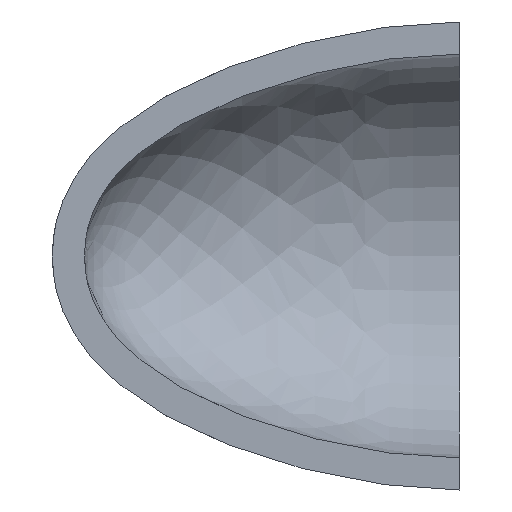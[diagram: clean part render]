
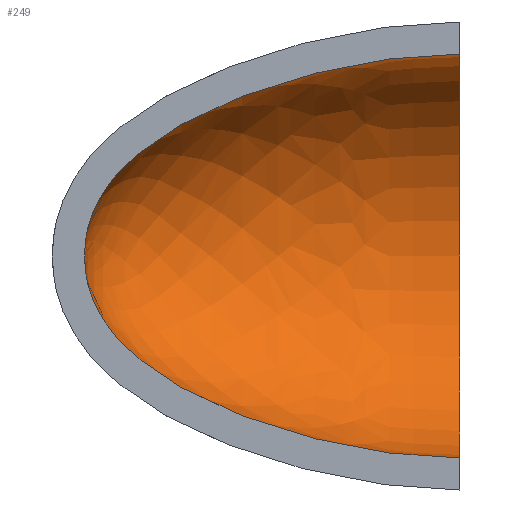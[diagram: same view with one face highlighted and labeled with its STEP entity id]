
A CAD part, left-side view. The second image highlights one B-rep face of the part: STEP entity #249.
In plain terms, the highlighted face is a revolution surface.
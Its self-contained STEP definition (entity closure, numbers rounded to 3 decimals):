
#100=CARTESIAN_POINT('Axis2P3D Location',(0.,0.,0.)) ;
#104=CARTESIAN_POINT('Vertex',(0.,0.,63.)) ;
#106=CARTESIAN_POINT('Vertex',(0.,0.,-63.)) ;
#132=CARTESIAN_POINT('Control Point',(0.,0.,-63.)) ;
#133=CARTESIAN_POINT('Control Point',(0.,2.071,-63.)) ;
#134=CARTESIAN_POINT('Control Point',(0.,4.163,-62.961)) ;
#135=CARTESIAN_POINT('Control Point',(0.,6.275,-62.884)) ;
#136=CARTESIAN_POINT('Control Point',(0.,11.84,-62.587)) ;
#137=CARTESIAN_POINT('Control Point',(0.,17.513,-62.046)) ;
#138=CARTESIAN_POINT('Control Point',(0.,21.049,-61.623)) ;
#139=CARTESIAN_POINT('Control Point',(0.,28.555,-60.55)) ;
#140=CARTESIAN_POINT('Control Point',(0.,36.127,-59.106)) ;
#141=CARTESIAN_POINT('Control Point',(0.,40.116,-58.247)) ;
#142=CARTESIAN_POINT('Control Point',(0.,48.566,-56.218)) ;
#143=CARTESIAN_POINT('Control Point',(0.,56.939,-53.744)) ;
#144=CARTESIAN_POINT('Control Point',(0.,61.325,-52.312)) ;
#145=CARTESIAN_POINT('Control Point',(0.,70.033,-49.17)) ;
#146=CARTESIAN_POINT('Control Point',(0.,78.406,-45.483)) ;
#147=CARTESIAN_POINT('Control Point',(0.,82.508,-43.484)) ;
#148=CARTESIAN_POINT('Control Point',(0.,88.641,-40.148)) ;
#149=CARTESIAN_POINT('Control Point',(0.,94.312,-36.431)) ;
#150=CARTESIAN_POINT('Control Point',(0.,96.259,-35.062)) ;
#151=CARTESIAN_POINT('Control Point',(0.,99.781,-32.393)) ;
#152=CARTESIAN_POINT('Control Point',(0.,102.998,-29.55)) ;
#153=CARTESIAN_POINT('Control Point',(0.,104.432,-28.181)) ;
#154=CARTESIAN_POINT('Control Point',(0.,107.026,-25.483)) ;
#155=CARTESIAN_POINT('Control Point',(0.,109.296,-22.656)) ;
#156=CARTESIAN_POINT('Control Point',(0.,110.304,-21.274)) ;
#157=CARTESIAN_POINT('Control Point',(0.,111.896,-18.846)) ;
#158=CARTESIAN_POINT('Control Point',(0.,113.233,-16.338)) ;
#159=CARTESIAN_POINT('Control Point',(0.,113.748,-15.271)) ;
#160=CARTESIAN_POINT('Control Point',(0.,114.832,-12.771)) ;
#161=CARTESIAN_POINT('Control Point',(0.,115.665,-10.191)) ;
#162=CARTESIAN_POINT('Control Point',(0.,116.057,-8.699)) ;
#163=CARTESIAN_POINT('Control Point',(0.,116.587,-6.105)) ;
#164=CARTESIAN_POINT('Control Point',(0.,116.879,-3.422)) ;
#165=CARTESIAN_POINT('Control Point',(0.,116.96,-2.296)) ;
#166=CARTESIAN_POINT('Control Point',(0.,117.,-1.156)) ;
#167=CARTESIAN_POINT('Control Point',(0.,117.,0.)) ;
#168=CARTESIAN_POINT('Vertex',(0.,117.,0.)) ;
#172=CARTESIAN_POINT('Control Point',(0.,0.,63.)) ;
#173=CARTESIAN_POINT('Control Point',(0.,2.071,63.)) ;
#174=CARTESIAN_POINT('Control Point',(0.,4.163,62.961)) ;
#175=CARTESIAN_POINT('Control Point',(0.,6.275,62.884)) ;
#176=CARTESIAN_POINT('Control Point',(0.,11.84,62.587)) ;
#177=CARTESIAN_POINT('Control Point',(0.,17.513,62.046)) ;
#178=CARTESIAN_POINT('Control Point',(0.,21.049,61.623)) ;
#179=CARTESIAN_POINT('Control Point',(0.,28.555,60.55)) ;
#180=CARTESIAN_POINT('Control Point',(0.,36.127,59.106)) ;
#181=CARTESIAN_POINT('Control Point',(0.,40.116,58.247)) ;
#182=CARTESIAN_POINT('Control Point',(0.,48.566,56.218)) ;
#183=CARTESIAN_POINT('Control Point',(0.,56.939,53.744)) ;
#184=CARTESIAN_POINT('Control Point',(0.,61.325,52.312)) ;
#185=CARTESIAN_POINT('Control Point',(0.,70.033,49.17)) ;
#186=CARTESIAN_POINT('Control Point',(0.,78.406,45.483)) ;
#187=CARTESIAN_POINT('Control Point',(0.,82.508,43.484)) ;
#188=CARTESIAN_POINT('Control Point',(0.,88.641,40.148)) ;
#189=CARTESIAN_POINT('Control Point',(0.,94.312,36.431)) ;
#190=CARTESIAN_POINT('Control Point',(0.,96.259,35.062)) ;
#191=CARTESIAN_POINT('Control Point',(0.,99.781,32.393)) ;
#192=CARTESIAN_POINT('Control Point',(0.,102.998,29.55)) ;
#193=CARTESIAN_POINT('Control Point',(0.,104.432,28.181)) ;
#194=CARTESIAN_POINT('Control Point',(0.,107.026,25.483)) ;
#195=CARTESIAN_POINT('Control Point',(0.,109.296,22.656)) ;
#196=CARTESIAN_POINT('Control Point',(0.,110.304,21.274)) ;
#197=CARTESIAN_POINT('Control Point',(0.,111.896,18.846)) ;
#198=CARTESIAN_POINT('Control Point',(0.,113.233,16.338)) ;
#199=CARTESIAN_POINT('Control Point',(0.,113.748,15.271)) ;
#200=CARTESIAN_POINT('Control Point',(0.,114.832,12.771)) ;
#201=CARTESIAN_POINT('Control Point',(0.,115.665,10.191)) ;
#202=CARTESIAN_POINT('Control Point',(0.,116.057,8.699)) ;
#203=CARTESIAN_POINT('Control Point',(0.,116.587,6.105)) ;
#204=CARTESIAN_POINT('Control Point',(0.,116.879,3.422)) ;
#205=CARTESIAN_POINT('Control Point',(0.,116.96,2.296)) ;
#206=CARTESIAN_POINT('Control Point',(0.,117.,1.156)) ;
#207=CARTESIAN_POINT('Control Point',(0.,117.,0.)) ;
#219=CARTESIAN_POINT('Control Point',(0.,0.,63.)) ;
#220=CARTESIAN_POINT('Control Point',(0.,6.828,63.)) ;
#221=CARTESIAN_POINT('Control Point',(0.,14.091,62.577)) ;
#222=CARTESIAN_POINT('Control Point',(0.,21.782,61.717)) ;
#223=CARTESIAN_POINT('Control Point',(0.,37.757,59.116)) ;
#224=CARTESIAN_POINT('Control Point',(0.,54.21,54.771)) ;
#225=CARTESIAN_POINT('Control Point',(0.,62.377,52.168)) ;
#226=CARTESIAN_POINT('Control Point',(0.,74.192,47.633)) ;
#227=CARTESIAN_POINT('Control Point',(0.,84.828,42.234)) ;
#228=CARTESIAN_POINT('Control Point',(0.,88.214,40.343)) ;
#229=CARTESIAN_POINT('Control Point',(0.,94.609,36.392)) ;
#230=CARTESIAN_POINT('Control Point',(0.,100.153,32.138)) ;
#231=CARTESIAN_POINT('Control Point',(0.,102.688,29.944)) ;
#232=CARTESIAN_POINT('Control Point',(0.,107.249,25.448)) ;
#233=CARTESIAN_POINT('Control Point',(0.,110.769,20.763)) ;
#234=CARTESIAN_POINT('Control Point',(0.,112.263,18.381)) ;
#235=CARTESIAN_POINT('Control Point',(0.,114.742,13.53)) ;
#236=CARTESIAN_POINT('Control Point',(0.,116.232,8.403)) ;
#237=CARTESIAN_POINT('Control Point',(0.,116.738,5.747)) ;
#238=CARTESIAN_POINT('Control Point',(0.,117.,2.953)) ;
#239=CARTESIAN_POINT('Control Point',(0.,117.,0.)) ;
#240=CARTESIAN_POINT('Axis1P Location',(0.,0.,0.)) ;
#101=DIRECTION('Axis2P3D Direction',(0.,1.,0.)) ;
#241=DIRECTION('Axis1P Direction',(0.,1.,0.)) ;
#102=AXIS2_PLACEMENT_3D('Circle Axis2P3D',#100,#101,$) ;
#245=ORIENTED_EDGE('',*,*,#108,.F.) ;
#246=ORIENTED_EDGE('',*,*,#208,.T.) ;
#247=ORIENTED_EDGE('',*,*,#170,.F.) ;
#249=ADVANCED_FACE('PartBody',(#248),#243,.F.) ;
#242=AXIS1_PLACEMENT('Revolution Surface Axis1P',#240,#241) ;
#131=B_SPLINE_CURVE_WITH_KNOTS('',5,(#132,#133,#134,#135,#136,#137,#138,#139,#140,#141,#142,#143,#144,#145,#146,#147,#148,#149,#150,#151,#152,#153,#154,#155,#156,#157,#158,#159,#160,#161,#162,#163,#164,#165,#166,#167),.UNSPECIFIED.,.F.,.U.,(6,3,3,3,3,3,3,3,3,3,3,6),(0.,15.183,39.678,66.856,97.314,128.14,145.113,160.077,173.824,183.765,196.809,206.014),.UNSPECIFIED.) ;
#171=B_SPLINE_CURVE_WITH_KNOTS('',5,(#172,#173,#174,#175,#176,#177,#178,#179,#180,#181,#182,#183,#184,#185,#186,#187,#188,#189,#190,#191,#192,#193,#194,#195,#196,#197,#198,#199,#200,#201,#202,#203,#204,#205,#206,#207),.UNSPECIFIED.,.F.,.U.,(6,3,3,3,3,3,3,3,3,3,3,6),(0.,15.183,39.678,66.856,97.314,128.14,145.113,160.077,173.824,183.765,196.809,206.014),.UNSPECIFIED.) ;
#218=B_SPLINE_CURVE_WITH_KNOTS('',5,(#219,#220,#221,#222,#223,#224,#225,#226,#227,#228,#229,#230,#231,#232,#233,#234,#235,#236,#237,#238,#239),.UNSPECIFIED.,.F.,.U.,(6,3,3,3,3,3,6),(0.,36.621,73.243,91.553,109.864,128.175,146.485),.UNSPECIFIED.) ;
#103=CIRCLE('generated circle',#102,63.) ;
#108=EDGE_CURVE('',#105,#107,#103,.T.) ;
#170=EDGE_CURVE('',#107,#169,#131,.T.) ;
#208=EDGE_CURVE('',#105,#169,#171,.T.) ;
#244=EDGE_LOOP('',(#245,#246,#247)) ;
#248=FACE_OUTER_BOUND('',#244,.T.) ;
#243=SURFACE_OF_REVOLUTION('Surface of Revolution',#218,#242) ;
#105=VERTEX_POINT('',#104) ;
#107=VERTEX_POINT('',#106) ;
#169=VERTEX_POINT('',#168) ;
